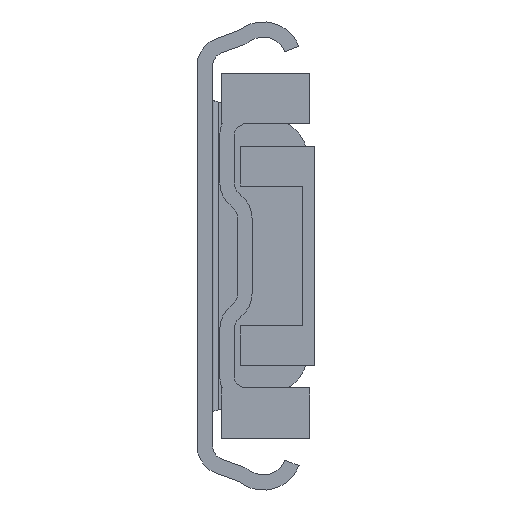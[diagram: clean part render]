
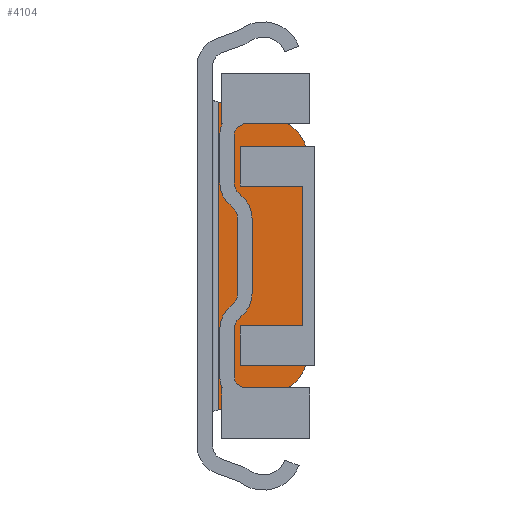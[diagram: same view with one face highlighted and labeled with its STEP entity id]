
A CAD part, front view. The second image highlights one B-rep face of the part: STEP entity #4104.
In plain terms, the highlighted planar face has unit normal (0, -1, 0).
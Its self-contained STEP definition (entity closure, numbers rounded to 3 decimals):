
#338=LINE('',#7072,#722);
#339=LINE('',#7077,#723);
#340=LINE('',#7081,#724);
#341=LINE('',#7083,#725);
#722=VECTOR('',#5861,1000.);
#723=VECTOR('',#5864,1000.);
#724=VECTOR('',#5867,1000.);
#725=VECTOR('',#5868,1000.);
#890=PLANE('',#4886);
#1758=ORIENTED_EDGE('',*,*,#2504,.F.);
#1759=ORIENTED_EDGE('',*,*,#2505,.F.);
#1760=ORIENTED_EDGE('',*,*,#2506,.F.);
#1761=ORIENTED_EDGE('',*,*,#2507,.F.);
#1762=ORIENTED_EDGE('',*,*,#2508,.F.);
#1763=ORIENTED_EDGE('',*,*,#2509,.F.);
#2504=EDGE_CURVE('',#2956,#2957,#338,.T.);
#2505=EDGE_CURVE('',#2958,#2956,#3198,.F.);
#2506=EDGE_CURVE('',#2959,#2958,#339,.T.);
#2507=EDGE_CURVE('',#2960,#2959,#3199,.F.);
#2508=EDGE_CURVE('',#2961,#2960,#340,.T.);
#2509=EDGE_CURVE('',#2957,#2961,#341,.T.);
#2956=VERTEX_POINT('',#7073);
#2957=VERTEX_POINT('',#7074);
#2958=VERTEX_POINT('',#7076);
#2959=VERTEX_POINT('',#7078);
#2960=VERTEX_POINT('',#7080);
#2961=VERTEX_POINT('',#7082);
#3198=CIRCLE('',#4887,8.);
#3199=CIRCLE('',#4888,8.);
#3462=EDGE_LOOP('',(#1758,#1759,#1760,#1761,#1762,#1763));
#3760=FACE_BOUND('',#3462,.T.);
#4104=ADVANCED_FACE('',(#3760),#890,.T.);
#4886=AXIS2_PLACEMENT_3D('',#7071,#5859,#5860);
#4887=AXIS2_PLACEMENT_3D('',#7075,#5862,#5863);
#4888=AXIS2_PLACEMENT_3D('',#7079,#5865,#5866);
#5859=DIRECTION('',(0.,-1.,0.));
#5860=DIRECTION('',(0.,0.,-1.));
#5861=DIRECTION('',(-0.966,0.,-0.259));
#5862=DIRECTION('',(0.,-1.,0.));
#5863=DIRECTION('',(0.,0.,-1.));
#5864=DIRECTION('',(0.,0.,-1.));
#5865=DIRECTION('',(0.,-1.,0.));
#5866=DIRECTION('',(0.,0.,-1.));
#5867=DIRECTION('',(0.966,0.,-0.259));
#5868=DIRECTION('',(0.,0.,1.));
#7071=CARTESIAN_POINT('',(12.9,1521.5,14.965));
#7072=CARTESIAN_POINT('',(22.316,1521.5,-20.174));
#7073=CARTESIAN_POINT('',(12.471,1521.5,-22.812));
#7074=CARTESIAN_POINT('',(3.5,1521.5,-25.216));
#7075=CARTESIAN_POINT('',(10.4,1521.5,-15.085));
#7076=CARTESIAN_POINT('',(18.4,1521.5,-15.085));
#7077=CARTESIAN_POINT('',(18.4,1521.5,14.965));
#7078=CARTESIAN_POINT('',(18.4,1521.5,15.085));
#7079=CARTESIAN_POINT('',(10.4,1521.5,15.085));
#7080=CARTESIAN_POINT('',(12.471,1521.5,22.812));
#7081=CARTESIAN_POINT('',(14.833,1521.5,22.179));
#7082=CARTESIAN_POINT('',(3.5,1521.5,25.216));
#7083=CARTESIAN_POINT('',(3.5,1521.5,-25.766));
